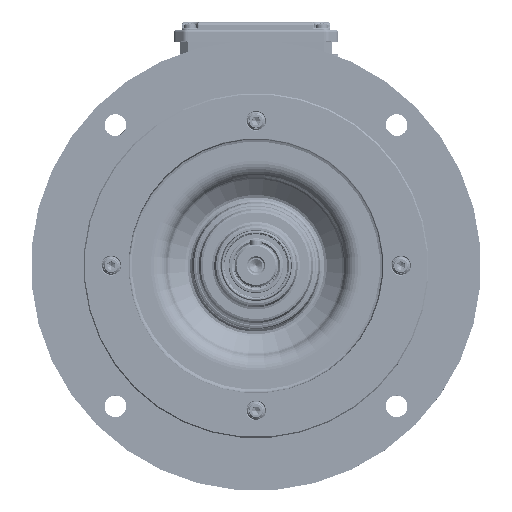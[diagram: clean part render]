
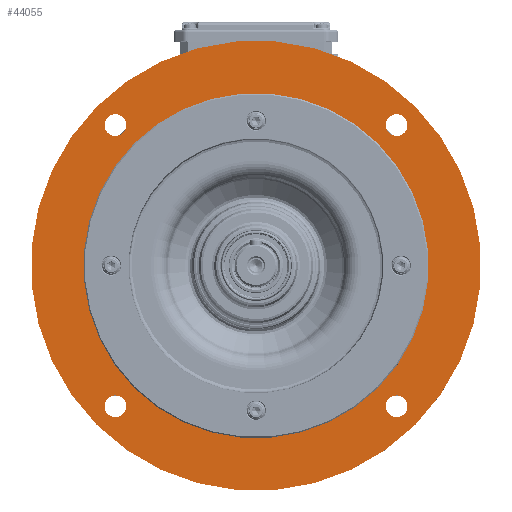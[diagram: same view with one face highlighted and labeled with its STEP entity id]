
A CAD part, top view. The second image highlights one B-rep face of the part: STEP entity #44055.
In plain terms, the highlighted planar face has unit normal (0, 0, 1).
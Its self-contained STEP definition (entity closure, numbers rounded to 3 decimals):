
#41804=PLANE('',#176893);
#44055=ADVANCED_FACE('',(#59188,#59189,#59190,#59191,#59192,#59193),#41804,
 .T.);
#59188=FACE_BOUND('',#61078,.T.);
#59189=FACE_BOUND('',#61079,.T.);
#59190=FACE_BOUND('',#61080,.T.);
#59191=FACE_BOUND('',#61081,.T.);
#59192=FACE_BOUND('',#61082,.T.);
#59193=FACE_BOUND('',#61083,.T.);
#61078=EDGE_LOOP('',(#73811));
#61079=EDGE_LOOP('',(#73812));
#61080=EDGE_LOOP('',(#73813));
#61081=EDGE_LOOP('',(#73814));
#61082=EDGE_LOOP('',(#73815));
#61083=EDGE_LOOP('',(#73816));
#73811=ORIENTED_EDGE('',*,*,#140703,.F.);
#73812=ORIENTED_EDGE('',*,*,#140704,.F.);
#73813=ORIENTED_EDGE('',*,*,#140705,.F.);
#73814=ORIENTED_EDGE('',*,*,#140706,.F.);
#73815=ORIENTED_EDGE('',*,*,#140707,.F.);
#73816=ORIENTED_EDGE('',*,*,#140708,.T.);
#125445=VERTEX_POINT('',#244386);
#125446=VERTEX_POINT('',#244388);
#125447=VERTEX_POINT('',#244390);
#125448=VERTEX_POINT('',#244392);
#125449=VERTEX_POINT('',#244394);
#125450=VERTEX_POINT('',#244396);
#140703=EDGE_CURVE('',#125445,#125445,#166552,.T.);
#140704=EDGE_CURVE('',#125446,#125446,#166553,.T.);
#140705=EDGE_CURVE('',#125447,#125447,#166554,.T.);
#140706=EDGE_CURVE('',#125448,#125448,#166555,.T.);
#140707=EDGE_CURVE('',#125449,#125449,#166556,.T.);
#140708=EDGE_CURVE('',#125450,#125450,#166557,.T.);
#166552=CIRCLE('',#176887,7.25);
#166553=CIRCLE('',#176888,7.25);
#166554=CIRCLE('',#176889,7.25);
#166555=CIRCLE('',#176890,7.25);
#166556=CIRCLE('',#176891,115.);
#166557=CIRCLE('',#176892,150.);
#176887=AXIS2_PLACEMENT_3D('',#244385,#196712,#196713);
#176888=AXIS2_PLACEMENT_3D('',#244387,#196714,#196715);
#176889=AXIS2_PLACEMENT_3D('',#244389,#196716,#196717);
#176890=AXIS2_PLACEMENT_3D('',#244391,#196718,#196719);
#176891=AXIS2_PLACEMENT_3D('',#244393,#196720,#196721);
#176892=AXIS2_PLACEMENT_3D('',#244395,#196722,#196723);
#176893=AXIS2_PLACEMENT_3D('',#244397,#196724,#196725);
#196712=DIRECTION('',(0.,0.,1.));
#196713=DIRECTION('',(-0.707,0.707,0.));
#196714=DIRECTION('',(0.,0.,1.));
#196715=DIRECTION('',(-0.707,-0.707,0.));
#196716=DIRECTION('',(0.,0.,1.));
#196717=DIRECTION('',(0.707,-0.707,0.));
#196718=DIRECTION('',(0.,0.,1.));
#196719=DIRECTION('',(0.707,0.707,0.));
#196720=DIRECTION('',(0.,0.,1.));
#196721=DIRECTION('',(-0.707,0.707,0.));
#196722=DIRECTION('',(0.,0.,1.));
#196723=DIRECTION('',(0.707,-0.707,0.));
#196724=DIRECTION('',(0.,0.,1.));
#196725=DIRECTION('',(0.707,-0.707,0.));
#244385=CARTESIAN_POINT('',(-93.692,-93.692,60.));
#244386=CARTESIAN_POINT('',(-98.818,-88.565,60.));
#244387=CARTESIAN_POINT('',(93.692,-93.692,60.));
#244388=CARTESIAN_POINT('',(88.565,-98.818,60.));
#244389=CARTESIAN_POINT('',(93.692,93.692,60.));
#244390=CARTESIAN_POINT('',(98.818,88.565,60.));
#244391=CARTESIAN_POINT('',(-93.692,93.692,60.));
#244392=CARTESIAN_POINT('',(-88.565,98.818,60.));
#244393=CARTESIAN_POINT('',(0.,0.,
60.));
#244394=CARTESIAN_POINT('',(-81.317,81.317,60.));
#244395=CARTESIAN_POINT('',(0.,0.,60.));
#244396=CARTESIAN_POINT('',(106.066,-106.066,60.));
#244397=CARTESIAN_POINT('',(0.,0.,
60.));
